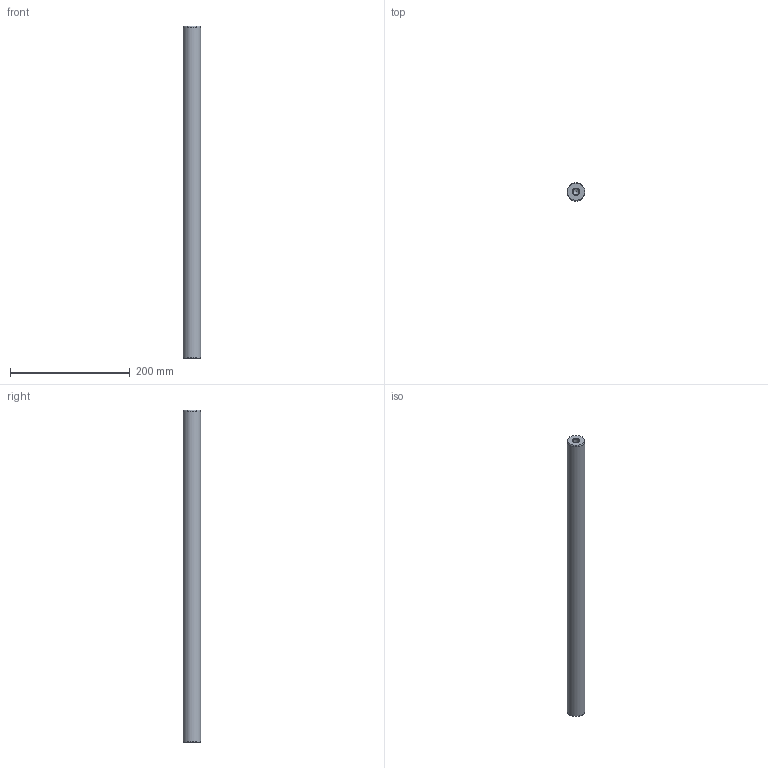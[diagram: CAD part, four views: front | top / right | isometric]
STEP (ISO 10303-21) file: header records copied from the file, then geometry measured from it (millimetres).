
FILE_DESCRIPTION( ( 'STEP AP214' ), '1' );
FILE_NAME( 'U:/Etudes/Top Solid/BIBLIO 3D AVM/STEP/G_GUIDAGE/Accessoires/Colonnes/Ø30x555.step', '2007-06-18T12:26:21', ( ' ' ), ( ' ' ), 'XStep 1.0', ' ', ' ' );
FILE_SCHEMA( ( 'automotive_design' ) );
Length unit declared in the file: metre
Products named in the file (1): 1
Bounding box: 30 x 30 x 555 mm (x, y, z)
Volume: 386974.3 mm3; surface area: 55631 mm2
Topology: 1 solids, 1 shells, 13 faces, 27 edges, 16 vertices
Faces by surface type: cone 6, cylinder 5, plane 2
Full cylindrical faces by diameter (mm): 10.106 x4, 30 x1
Entity records: 382 total; most frequent: DIRECTION 52, CARTESIAN_POINT 40, AXIS2_PLACEMENT_3D 26, EDGE_LOOP 24, ORIENTED_EDGE 24, FACE_OUTER_BOUND 18, VERTEX_POINT 14, STYLED_ITEM 13
